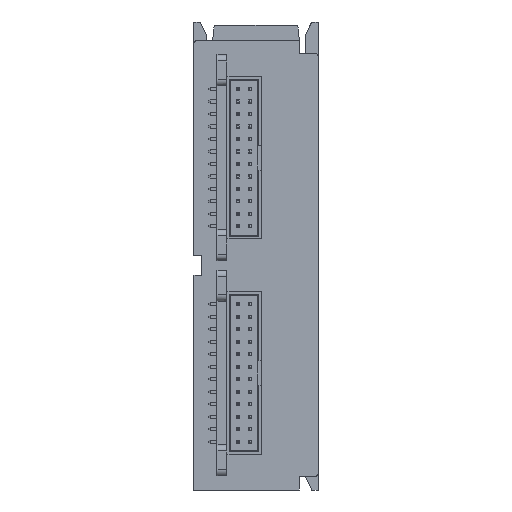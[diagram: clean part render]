
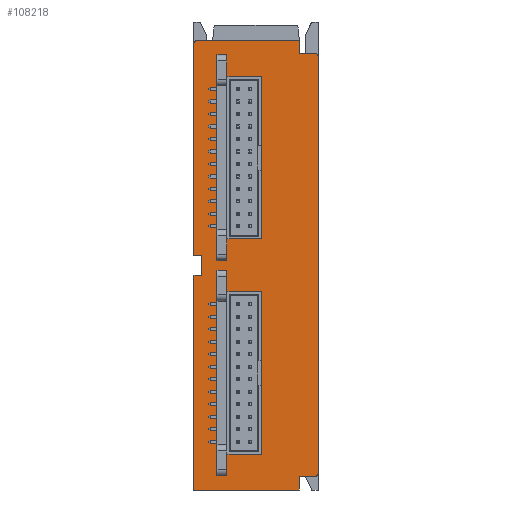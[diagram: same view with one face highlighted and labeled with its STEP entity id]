
A CAD part, front view. The second image highlights one B-rep face of the part: STEP entity #108218.
In plain terms, the highlighted planar face has unit normal (0, -1, 0).
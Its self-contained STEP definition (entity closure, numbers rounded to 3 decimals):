
#1046=DIRECTION('',(-1.,0.,0.));
#1047=VECTOR('',#1046,2.5);
#1048=CARTESIAN_POINT('',(13.65,50.,-28.35));
#1049=LINE('',#1048,#1047);
#1053=DIRECTION('',(0.,0.,-1.));
#1054=VECTOR('',#1053,2.15);
#1055=CARTESIAN_POINT('',(11.15,50.,-28.35));
#1056=LINE('',#1055,#1054);
#1060=DIRECTION('',(1.,0.,0.));
#1061=VECTOR('',#1060,16.9);
#1062=CARTESIAN_POINT('',(-5.75,50.,-30.5));
#1063=LINE('',#1062,#1061);
#1067=DIRECTION('',(0.,0.,-1.));
#1068=VECTOR('',#1067,34.4);
#1069=CARTESIAN_POINT('',(-5.75,50.,3.9));
#1070=LINE('',#1069,#1068);
#1074=DIRECTION('',(1.,0.,0.));
#1075=VECTOR('',#1074,1.25);
#1076=CARTESIAN_POINT('',(-5.75,50.,3.9));
#1077=LINE('',#1076,#1075);
#1081=DIRECTION('',(0.,0.,-1.));
#1082=VECTOR('',#1081,3.2);
#1083=CARTESIAN_POINT('',(-4.5,50.,7.1));
#1084=LINE('',#1083,#1082);
#1088=DIRECTION('',(1.,0.,0.));
#1089=VECTOR('',#1088,1.25);
#1090=CARTESIAN_POINT('',(-5.75,50.,7.1));
#1091=LINE('',#1090,#1089);
#1095=DIRECTION('',(0.,0.,-1.));
#1096=VECTOR('',#1095,33.9);
#1097=CARTESIAN_POINT('',(-5.75,50.,41.));
#1098=LINE('',#1097,#1096);
#1102=CARTESIAN_POINT('',(-5.25,50.,41.));
#1103=DIRECTION('',(0.,-1.,0.));
#1104=DIRECTION('',(0.,0.,1.));
#1105=AXIS2_PLACEMENT_3D('',#1102,#1103,#1104);
#1110=DIRECTION('',(-1.,0.,0.));
#1111=VECTOR('',#1110,16.4);
#1112=CARTESIAN_POINT('',(11.15,50.,41.5));
#1113=LINE('',#1112,#1111);
#1117=DIRECTION('',(0.,0.,-1.));
#1118=VECTOR('',#1117,2.);
#1119=CARTESIAN_POINT('',(11.15,50.,41.5));
#1120=LINE('',#1119,#1118);
#1124=DIRECTION('',(-1.,0.,0.));
#1125=VECTOR('',#1124,2.5);
#1126=CARTESIAN_POINT('',(13.65,50.,39.5));
#1127=LINE('',#1126,#1125);
#1131=CARTESIAN_POINT('',(13.65,50.,39.));
#1132=DIRECTION('',(0.,-1.,0.));
#1133=DIRECTION('',(1.,0.,0.));
#1134=AXIS2_PLACEMENT_3D('',#1131,#1132,#1133);
#1139=DIRECTION('',(0.,0.,1.));
#1140=VECTOR('',#1139,66.85);
#1141=CARTESIAN_POINT('',(14.15,50.,-27.85));
#1142=LINE('',#1141,#1140);
#1146=CARTESIAN_POINT('',(13.65,50.,-27.85));
#1147=DIRECTION('',(0.,-1.,0.));
#1148=DIRECTION('',(0.,0.,-1.));
#1149=AXIS2_PLACEMENT_3D('',#1146,#1147,#1148);
#1154=DIRECTION('',(0.,0.,-1.));
#1155=VECTOR('',#1154,33.);
#1156=CARTESIAN_POINT('',(-2.05,50.,4.75));
#1157=LINE('',#1156,#1155);
#1161=DIRECTION('',(-1.,0.,0.));
#1162=VECTOR('',#1161,1.6);
#1163=CARTESIAN_POINT('',(-0.45,50.,-28.25));
#1164=LINE('',#1163,#1162);
#1168=DIRECTION('',(0.,0.,-1.));
#1169=VECTOR('',#1168,33.);
#1170=CARTESIAN_POINT('',(-0.45,50.,4.75));
#1171=LINE('',#1170,#1169);
#1175=DIRECTION('',(1.,0.,0.));
#1176=VECTOR('',#1175,1.6);
#1177=CARTESIAN_POINT('',(-2.05,50.,4.75));
#1178=LINE('',#1177,#1176);
#1182=DIRECTION('',(0.,0.,-1.));
#1183=VECTOR('',#1182,33.);
#1184=CARTESIAN_POINT('',(-2.05,50.,39.25));
#1185=LINE('',#1184,#1183);
#1189=DIRECTION('',(-1.,0.,0.));
#1190=VECTOR('',#1189,1.6);
#1191=CARTESIAN_POINT('',(-0.45,50.,6.25));
#1192=LINE('',#1191,#1190);
#1196=DIRECTION('',(0.,0.,-1.));
#1197=VECTOR('',#1196,33.);
#1198=CARTESIAN_POINT('',(-0.45,50.,39.25));
#1199=LINE('',#1198,#1197);
#1203=DIRECTION('',(1.,0.,0.));
#1204=VECTOR('',#1203,1.6);
#1205=CARTESIAN_POINT('',(-2.05,50.,39.25));
#1206=LINE('',#1205,#1204);
#91670=CARTESIAN_POINT('',(11.15,50.,-28.35));
#91671=CARTESIAN_POINT('',(11.15,50.,-30.5));
#91672=VERTEX_POINT('',#91670);
#91673=VERTEX_POINT('',#91671);
#91674=CARTESIAN_POINT('',(-5.75,50.,-30.5));
#91675=VERTEX_POINT('',#91674);
#91676=CARTESIAN_POINT('',(13.65,50.,-28.35));
#91677=VERTEX_POINT('',#91676);
#91678=CARTESIAN_POINT('',(-5.25,50.,41.5));
#91679=CARTESIAN_POINT('',(-5.75,50.,41.));
#91680=VERTEX_POINT('',#91678);
#91681=VERTEX_POINT('',#91679);
#91688=CARTESIAN_POINT('',(14.15,50.,-27.85));
#91689=VERTEX_POINT('',#91688);
#91758=CARTESIAN_POINT('',(11.15,50.,41.5));
#91759=CARTESIAN_POINT('',(11.15,50.,39.5));
#91760=VERTEX_POINT('',#91758);
#91761=VERTEX_POINT('',#91759);
#91772=CARTESIAN_POINT('',(14.15,50.,39.));
#91773=VERTEX_POINT('',#91772);
#91790=CARTESIAN_POINT('',(13.65,50.,39.5));
#91791=VERTEX_POINT('',#91790);
#93827=CARTESIAN_POINT('',(-5.75,50.,7.1));
#93828=CARTESIAN_POINT('',(-4.5,50.,7.1));
#93829=VERTEX_POINT('',#93827);
#93830=VERTEX_POINT('',#93828);
#93831=CARTESIAN_POINT('',(-4.5,50.,3.9));
#93832=VERTEX_POINT('',#93831);
#93833=CARTESIAN_POINT('',(-5.75,50.,3.9));
#93834=VERTEX_POINT('',#93833);
#106771=CARTESIAN_POINT('',(-2.05,50.,4.75));
#106772=CARTESIAN_POINT('',(-2.05,50.,-28.25));
#106773=VERTEX_POINT('',#106771);
#106774=VERTEX_POINT('',#106772);
#106775=CARTESIAN_POINT('',(-0.45,50.,4.75));
#106776=CARTESIAN_POINT('',(-0.45,50.,-28.25));
#106777=VERTEX_POINT('',#106775);
#106778=VERTEX_POINT('',#106776);
#106779=CARTESIAN_POINT('',(-2.05,50.,39.25));
#106780=CARTESIAN_POINT('',(-2.05,50.,6.25));
#106781=VERTEX_POINT('',#106779);
#106782=VERTEX_POINT('',#106780);
#106783=CARTESIAN_POINT('',(-0.45,50.,39.25));
#106784=CARTESIAN_POINT('',(-0.45,50.,6.25));
#106785=VERTEX_POINT('',#106783);
#106786=VERTEX_POINT('',#106784);
#108164=CARTESIAN_POINT('',(0.,50.,0.));
#108165=DIRECTION('',(0.,1.,0.));
#108166=DIRECTION('',(1.,0.,0.));
#108167=AXIS2_PLACEMENT_3D('',#108164,#108165,#108166);
#108168=PLANE('',#108167);
#108169=ORIENTED_EDGE('',*,*,#108152,.T.);
#108170=ORIENTED_EDGE('',*,*,#107877,.T.);
#108171=ORIENTED_EDGE('',*,*,#107598,.F.);
#108173=ORIENTED_EDGE('',*,*,#108172,.F.);
#108175=ORIENTED_EDGE('',*,*,#108174,.T.);
#108177=ORIENTED_EDGE('',*,*,#108176,.F.);
#108179=ORIENTED_EDGE('',*,*,#108178,.F.);
#108181=ORIENTED_EDGE('',*,*,#108180,.F.);
#108183=ORIENTED_EDGE('',*,*,#108182,.F.);
#108185=ORIENTED_EDGE('',*,*,#108184,.F.);
#108187=ORIENTED_EDGE('',*,*,#108186,.T.);
#108189=ORIENTED_EDGE('',*,*,#108188,.F.);
#108191=ORIENTED_EDGE('',*,*,#108190,.F.);
#108193=ORIENTED_EDGE('',*,*,#108192,.F.);
#108195=ORIENTED_EDGE('',*,*,#108194,.F.);
#108196=EDGE_LOOP('',(#108169,#108170,#108171,#108173,#108175,#108177,#108179,
#108181,#108183,#108185,#108187,#108189,#108191,#108193,#108195));
#108197=FACE_OUTER_BOUND('',#108196,.F.);
#108199=ORIENTED_EDGE('',*,*,#108198,.T.);
#108201=ORIENTED_EDGE('',*,*,#108200,.F.);
#108203=ORIENTED_EDGE('',*,*,#108202,.F.);
#108205=ORIENTED_EDGE('',*,*,#108204,.F.);
#108206=EDGE_LOOP('',(#108199,#108201,#108203,#108205));
#108207=FACE_BOUND('',#108206,.F.);
#108209=ORIENTED_EDGE('',*,*,#108208,.T.);
#108211=ORIENTED_EDGE('',*,*,#108210,.F.);
#108213=ORIENTED_EDGE('',*,*,#108212,.F.);
#108215=ORIENTED_EDGE('',*,*,#108214,.F.);
#108216=EDGE_LOOP('',(#108209,#108211,#108213,#108215));
#108217=FACE_BOUND('',#108216,.F.);
#108218=ADVANCED_FACE('',(#108197,#108207,#108217),#108168,.F.);
#1106=CIRCLE('',#1105,0.5);
#1135=CIRCLE('',#1134,0.5);
#1150=CIRCLE('',#1149,0.5);
#107598=EDGE_CURVE('',#91675,#91673,#1063,.T.);
#107877=EDGE_CURVE('',#91672,#91673,#1056,.T.);
#108152=EDGE_CURVE('',#91677,#91672,#1049,.T.);
#108172=EDGE_CURVE('',#93834,#91675,#1070,.T.);
#108174=EDGE_CURVE('',#93834,#93832,#1077,.T.);
#108176=EDGE_CURVE('',#93830,#93832,#1084,.T.);
#108178=EDGE_CURVE('',#93829,#93830,#1091,.T.);
#108180=EDGE_CURVE('',#91681,#93829,#1098,.T.);
#108182=EDGE_CURVE('',#91680,#91681,#1106,.T.);
#108184=EDGE_CURVE('',#91760,#91680,#1113,.T.);
#108186=EDGE_CURVE('',#91760,#91761,#1120,.T.);
#108188=EDGE_CURVE('',#91791,#91761,#1127,.T.);
#108190=EDGE_CURVE('',#91773,#91791,#1135,.T.);
#108192=EDGE_CURVE('',#91689,#91773,#1142,.T.);
#108194=EDGE_CURVE('',#91677,#91689,#1150,.T.);
#108198=EDGE_CURVE('',#106773,#106774,#1157,.T.);
#108200=EDGE_CURVE('',#106778,#106774,#1164,.T.);
#108202=EDGE_CURVE('',#106777,#106778,#1171,.T.);
#108204=EDGE_CURVE('',#106773,#106777,#1178,.T.);
#108208=EDGE_CURVE('',#106781,#106782,#1185,.T.);
#108210=EDGE_CURVE('',#106786,#106782,#1192,.T.);
#108212=EDGE_CURVE('',#106785,#106786,#1199,.T.);
#108214=EDGE_CURVE('',#106781,#106785,#1206,.T.);
